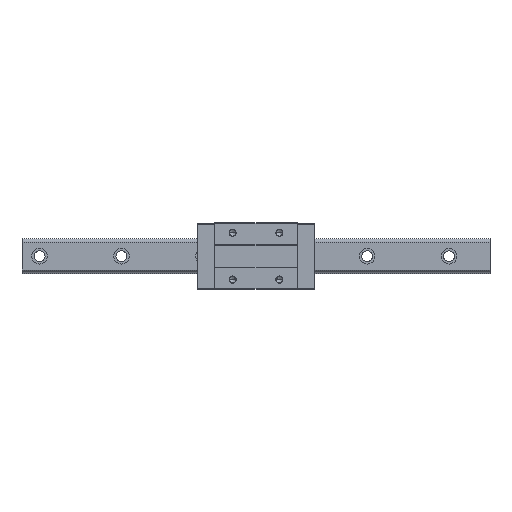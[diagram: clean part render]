
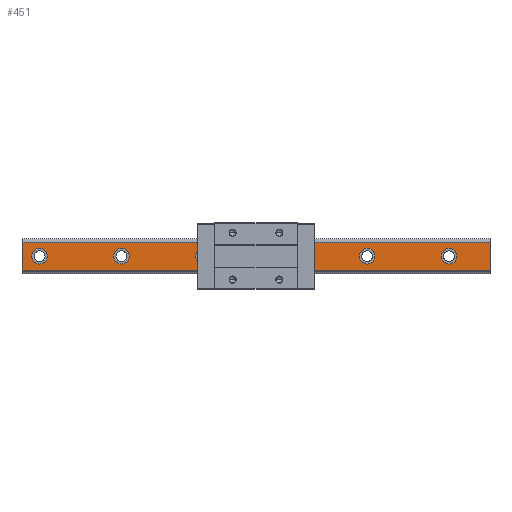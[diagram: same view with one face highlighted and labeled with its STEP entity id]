
A CAD part, top view. The second image highlights one B-rep face of the part: STEP entity #451.
In plain terms, the highlighted planar face has unit normal (0, 0, 1).
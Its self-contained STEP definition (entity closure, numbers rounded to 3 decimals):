
#28 = DIRECTION ( 'NONE',  ( 1., 0., 0. ) ) ;
#67 = EDGE_LOOP ( 'NONE', ( #1476, #2137 ) ) ;
#76 = CIRCLE ( 'NONE', #4699, 10. ) ;
#90 = VERTEX_POINT ( 'NONE', #2407 ) ;
#100 = DIRECTION ( 'NONE',  ( 0., 0., 1. ) ) ;
#117 = CIRCLE ( 'NONE', #4648, 10. ) ;
#309 = CARTESIAN_POINT ( 'NONE',  ( -182.5, 0., 32. ) ) ;
#327 = DIRECTION ( 'NONE',  ( 0., -1., 0. ) ) ;
#409 = CARTESIAN_POINT ( 'NONE',  ( 300., 17.696, 32. ) ) ;
#451 = ADVANCED_FACE ( 'NONE', ( #1074, #4894, #4501, #5324, #5352, #3164, #2369 ), #1046, .F. ) ;
#471 = ORIENTED_EDGE ( 'NONE', *, *, #3437, .F. ) ;
#499 = ORIENTED_EDGE ( 'NONE', *, *, #5425, .F. ) ;
#668 = ORIENTED_EDGE ( 'NONE', *, *, #5206, .F. ) ;
#713 = EDGE_CURVE ( 'NONE', #2006, #1735, #117, .T. ) ;
#759 = DIRECTION ( 'NONE',  ( 0., 0., 1. ) ) ;
#766 = LINE ( 'NONE', #3310, #1798 ) ;
#768 = VERTEX_POINT ( 'NONE', #1787 ) ;
#885 = EDGE_CURVE ( 'NONE', #5057, #3733, #2477, .T. ) ;
#899 = DIRECTION ( 'NONE',  ( 1., 0., 0. ) ) ;
#912 = EDGE_LOOP ( 'NONE', ( #4562, #668, #3432, #3880 ) ) ;
#940 = DIRECTION ( 'NONE',  ( 0., 0., 1. ) ) ;
#941 = DIRECTION ( 'NONE',  ( 0., 0., 1. ) ) ;
#959 = CIRCLE ( 'NONE', #4575, 10. ) ;
#991 = ORIENTED_EDGE ( 'NONE', *, *, #3647, .F. ) ;
#1004 = DIRECTION ( 'NONE',  ( 0., 0., 1. ) ) ;
#1046 = PLANE ( 'NONE',  #5484 ) ;
#1074 = FACE_BOUND ( 'NONE', #67, .T. ) ;
#1095 = VERTEX_POINT ( 'NONE', #5535 ) ;
#1111 = DIRECTION ( 'NONE',  ( 0., 0., 1. ) ) ;
#1137 = EDGE_CURVE ( 'NONE', #1095, #2412, #5270, .T. ) ;
#1140 = CARTESIAN_POINT ( 'NONE',  ( -162.5, 0., 32. ) ) ;
#1327 = DIRECTION ( 'NONE',  ( 1., 0., 0. ) ) ;
#1338 = DIRECTION ( 'NONE',  ( 1., 0., 0. ) ) ;
#1378 = VERTEX_POINT ( 'NONE', #5078 ) ;
#1417 = CARTESIAN_POINT ( 'NONE',  ( -277.5, 0., 32. ) ) ;
#1476 = ORIENTED_EDGE ( 'NONE', *, *, #4059, .F. ) ;
#1494 = DIRECTION ( 'NONE',  ( 1., 0., 0. ) ) ;
#1506 = DIRECTION ( 'NONE',  ( 1., 0., 0. ) ) ;
#1557 = VECTOR ( 'NONE', #327, 1000. ) ;
#1565 = EDGE_CURVE ( 'NONE', #90, #1378, #3898, .T. ) ;
#1648 = AXIS2_PLACEMENT_3D ( 'NONE', #5011, #2773, #1494 ) ;
#1687 = DIRECTION ( 'NONE',  ( -1., 0., 0. ) ) ;
#1699 = EDGE_CURVE ( 'NONE', #2412, #1095, #3988, .T. ) ;
#1735 = VERTEX_POINT ( 'NONE', #2823 ) ;
#1746 = CARTESIAN_POINT ( 'NONE',  ( 142.5, 0., 32. ) ) ;
#1751 = CARTESIAN_POINT ( 'NONE',  ( -277.5, 0., 32. ) ) ;
#1752 = DIRECTION ( 'NONE',  ( 1., 0., 0. ) ) ;
#1779 = VECTOR ( 'NONE', #2955, 1000. ) ;
#1787 = CARTESIAN_POINT ( 'NONE',  ( 300., -17.696, 32. ) ) ;
#1798 = VECTOR ( 'NONE', #1687, 1000. ) ;
#1823 = VERTEX_POINT ( 'NONE', #5494 ) ;
#1878 = CARTESIAN_POINT ( 'NONE',  ( 37.5, 0., 32. ) ) ;
#1908 = DIRECTION ( 'NONE',  ( 1., 0., 0. ) ) ;
#1920 = CARTESIAN_POINT ( 'NONE',  ( 300., -17.696, 32. ) ) ;
#1932 = EDGE_LOOP ( 'NONE', ( #5345, #4993 ) ) ;
#1938 = VERTEX_POINT ( 'NONE', #3100 ) ;
#1956 = ORIENTED_EDGE ( 'NONE', *, *, #3713, .F. ) ;
#2006 = VERTEX_POINT ( 'NONE', #4353 ) ;
#2137 = ORIENTED_EDGE ( 'NONE', *, *, #4490, .F. ) ;
#2161 = LINE ( 'NONE', #3865, #3755 ) ;
#2353 = CARTESIAN_POINT ( 'NONE',  ( 142.5, 0., 32. ) ) ;
#2369 = FACE_OUTER_BOUND ( 'NONE', #912, .T. ) ;
#2407 = CARTESIAN_POINT ( 'NONE',  ( 152.5, 0., 32. ) ) ;
#2412 = VERTEX_POINT ( 'NONE', #2670 ) ;
#2477 = LINE ( 'NONE', #4514, #1557 ) ;
#2587 = ORIENTED_EDGE ( 'NONE', *, *, #4377, .F. ) ;
#2590 = CIRCLE ( 'NONE', #4582, 10. ) ;
#2670 = CARTESIAN_POINT ( 'NONE',  ( -57.5, 0., 32. ) ) ;
#2773 = DIRECTION ( 'NONE',  ( 0., 0., 1. ) ) ;
#2823 = CARTESIAN_POINT ( 'NONE',  ( 47.5, 0., 32. ) ) ;
#2901 = CARTESIAN_POINT ( 'NONE',  ( -172.5, 0., 32. ) ) ;
#2933 = ORIENTED_EDGE ( 'NONE', *, *, #1699, .F. ) ;
#2947 = CIRCLE ( 'NONE', #4671, 10. ) ;
#2955 = DIRECTION ( 'NONE',  ( 0., -1., 0. ) ) ;
#3016 = CARTESIAN_POINT ( 'NONE',  ( 257.5, 0., 32. ) ) ;
#3038 = AXIS2_PLACEMENT_3D ( 'NONE', #3960, #940, #3059 ) ;
#3059 = DIRECTION ( 'NONE',  ( 1., 0., 0. ) ) ;
#3100 = CARTESIAN_POINT ( 'NONE',  ( -287.5, 0., 32. ) ) ;
#3164 = FACE_BOUND ( 'NONE', #4908, .T. ) ;
#3296 = DIRECTION ( 'NONE',  ( 0., 0., 1. ) ) ;
#3310 = CARTESIAN_POINT ( 'NONE',  ( 300., -17.696, 32. ) ) ;
#3322 = VERTEX_POINT ( 'NONE', #309 ) ;
#3380 = LINE ( 'NONE', #5112, #1779 ) ;
#3432 = ORIENTED_EDGE ( 'NONE', *, *, #5591, .F. ) ;
#3437 = EDGE_CURVE ( 'NONE', #3534, #3895, #76, .T. ) ;
#3484 = DIRECTION ( 'NONE',  ( 0., 0., 1. ) ) ;
#3516 = DIRECTION ( 'NONE',  ( 1., 0., 0. ) ) ;
#3534 = VERTEX_POINT ( 'NONE', #3016 ) ;
#3547 = AXIS2_PLACEMENT_3D ( 'NONE', #5221, #941, #1752 ) ;
#3647 = EDGE_CURVE ( 'NONE', #3895, #3534, #4782, .T. ) ;
#3650 = DIRECTION ( 'NONE',  ( -1., 0., 0. ) ) ;
#3670 = DIRECTION ( 'NONE',  ( 1., 0., 0. ) ) ;
#3713 = EDGE_CURVE ( 'NONE', #4230, #3322, #959, .T. ) ;
#3733 = VERTEX_POINT ( 'NONE', #4213 ) ;
#3755 = VECTOR ( 'NONE', #4267, 1000. ) ;
#3865 = CARTESIAN_POINT ( 'NONE',  ( 300., 17.696, 32. ) ) ;
#3880 = ORIENTED_EDGE ( 'NONE', *, *, #3884, .T. ) ;
#3884 = EDGE_CURVE ( 'NONE', #4318, #5057, #2161, .T. ) ;
#3895 = VERTEX_POINT ( 'NONE', #5091 ) ;
#3898 = CIRCLE ( 'NONE', #5359, 10. ) ;
#3925 = DIRECTION ( 'NONE',  ( 0., 0., 1. ) ) ;
#3960 = CARTESIAN_POINT ( 'NONE',  ( 37.5, 0., 32. ) ) ;
#3968 = DIRECTION ( 'NONE',  ( 1., 0., 0. ) ) ;
#3988 = CIRCLE ( 'NONE', #1648, 10. ) ;
#4027 = DIRECTION ( 'NONE',  ( 0., 0., 1. ) ) ;
#4059 = EDGE_CURVE ( 'NONE', #1823, #1938, #2947, .T. ) ;
#4126 = AXIS2_PLACEMENT_3D ( 'NONE', #2353, #1111, #1908 ) ;
#4129 = CARTESIAN_POINT ( 'NONE',  ( -300., 17.696, 32. ) ) ;
#4138 = EDGE_CURVE ( 'NONE', #1378, #90, #5129, .T. ) ;
#4173 = EDGE_LOOP ( 'NONE', ( #1956, #499 ) ) ;
#4213 = CARTESIAN_POINT ( 'NONE',  ( -300., -17.696, 32. ) ) ;
#4230 = VERTEX_POINT ( 'NONE', #1140 ) ;
#4267 = DIRECTION ( 'NONE',  ( -1., 0., 0. ) ) ;
#4318 = VERTEX_POINT ( 'NONE', #409 ) ;
#4353 = CARTESIAN_POINT ( 'NONE',  ( 27.5, 0., 32. ) ) ;
#4354 = ORIENTED_EDGE ( 'NONE', *, *, #1137, .F. ) ;
#4377 = EDGE_CURVE ( 'NONE', #1735, #2006, #5488, .T. ) ;
#4490 = EDGE_CURVE ( 'NONE', #1938, #1823, #2590, .T. ) ;
#4501 = FACE_BOUND ( 'NONE', #4866, .T. ) ;
#4514 = CARTESIAN_POINT ( 'NONE',  ( -300., -17.696, 32. ) ) ;
#4562 = ORIENTED_EDGE ( 'NONE', *, *, #885, .T. ) ;
#4575 = AXIS2_PLACEMENT_3D ( 'NONE', #4637, #759, #3670 ) ;
#4582 = AXIS2_PLACEMENT_3D ( 'NONE', #1751, #3484, #1327 ) ;
#4606 = ORIENTED_EDGE ( 'NONE', *, *, #713, .F. ) ;
#4637 = CARTESIAN_POINT ( 'NONE',  ( -172.5, 0., 32. ) ) ;
#4648 = AXIS2_PLACEMENT_3D ( 'NONE', #1878, #1004, #3968 ) ;
#4671 = AXIS2_PLACEMENT_3D ( 'NONE', #1417, #4027, #3516 ) ;
#4699 = AXIS2_PLACEMENT_3D ( 'NONE', #4720, #5151, #899 ) ;
#4720 = CARTESIAN_POINT ( 'NONE',  ( 247.5, 0., 32. ) ) ;
#4782 = CIRCLE ( 'NONE', #4878, 10. ) ;
#4866 = EDGE_LOOP ( 'NONE', ( #2933, #4354 ) ) ;
#4878 = AXIS2_PLACEMENT_3D ( 'NONE', #5320, #100, #1338 ) ;
#4886 = CIRCLE ( 'NONE', #5523, 10. ) ;
#4894 = FACE_BOUND ( 'NONE', #4173, .T. ) ;
#4908 = EDGE_LOOP ( 'NONE', ( #471, #991 ) ) ;
#4993 = ORIENTED_EDGE ( 'NONE', *, *, #4138, .F. ) ;
#5011 = CARTESIAN_POINT ( 'NONE',  ( -67.5, 0., 32. ) ) ;
#5057 = VERTEX_POINT ( 'NONE', #4129 ) ;
#5078 = CARTESIAN_POINT ( 'NONE',  ( 132.5, 0., 32. ) ) ;
#5091 = CARTESIAN_POINT ( 'NONE',  ( 237.5, 0., 32. ) ) ;
#5112 = CARTESIAN_POINT ( 'NONE',  ( 300., -17.696, 32. ) ) ;
#5129 = CIRCLE ( 'NONE', #4126, 10. ) ;
#5151 = DIRECTION ( 'NONE',  ( 0., 0., 1. ) ) ;
#5206 = EDGE_CURVE ( 'NONE', #768, #3733, #766, .T. ) ;
#5221 = CARTESIAN_POINT ( 'NONE',  ( -67.5, 0., 32. ) ) ;
#5270 = CIRCLE ( 'NONE', #3547, 10. ) ;
#5320 = CARTESIAN_POINT ( 'NONE',  ( 247.5, 0., 32. ) ) ;
#5324 = FACE_BOUND ( 'NONE', #5597, .T. ) ;
#5345 = ORIENTED_EDGE ( 'NONE', *, *, #1565, .F. ) ;
#5352 = FACE_BOUND ( 'NONE', #1932, .T. ) ;
#5359 = AXIS2_PLACEMENT_3D ( 'NONE', #1746, #3925, #28 ) ;
#5408 = DIRECTION ( 'NONE',  ( 0., 0., -1. ) ) ;
#5425 = EDGE_CURVE ( 'NONE', #3322, #4230, #4886, .T. ) ;
#5484 = AXIS2_PLACEMENT_3D ( 'NONE', #1920, #5408, #3650 ) ;
#5488 = CIRCLE ( 'NONE', #3038, 10. ) ;
#5494 = CARTESIAN_POINT ( 'NONE',  ( -267.5, 0., 32. ) ) ;
#5523 = AXIS2_PLACEMENT_3D ( 'NONE', #2901, #3296, #1506 ) ;
#5535 = CARTESIAN_POINT ( 'NONE',  ( -77.5, 0., 32. ) ) ;
#5591 = EDGE_CURVE ( 'NONE', #4318, #768, #3380, .T. ) ;
#5597 = EDGE_LOOP ( 'NONE', ( #2587, #4606 ) ) ;
